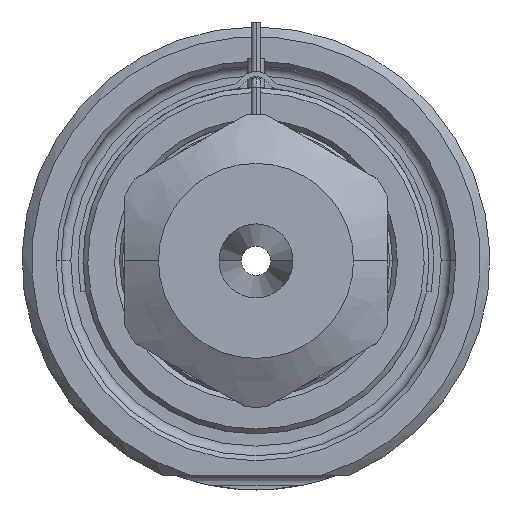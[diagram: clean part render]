
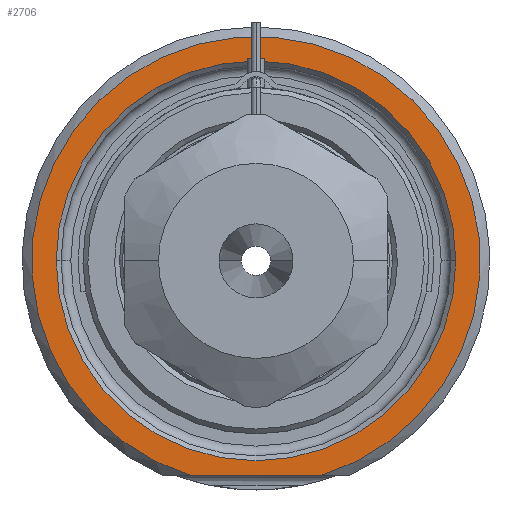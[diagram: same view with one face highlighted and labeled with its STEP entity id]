
A CAD part, front view. The second image highlights one B-rep face of the part: STEP entity #2706.
In plain terms, the highlighted planar face has unit normal (0, -1, 0).
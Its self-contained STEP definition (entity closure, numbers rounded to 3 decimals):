
#1=DIRECTION('',(1.,0.,0.));
#2=VECTOR('',#1,13.416);
#3=CARTESIAN_POINT('',(-6.708,0.,-22.));
#4=LINE('',#3,#2);
#5=CARTESIAN_POINT('',(0.,0.,0.));
#6=DIRECTION('',(0.,1.,0.));
#7=DIRECTION('',(-1.,0.,0.));
#8=AXIS2_PLACEMENT_3D('',#5,#6,#7);
#10=CARTESIAN_POINT('',(0.,0.,0.));
#11=DIRECTION('',(0.,1.,0.));
#12=DIRECTION('',(1.,0.,0.));
#13=AXIS2_PLACEMENT_3D('',#10,#11,#12);
#121=CARTESIAN_POINT('',(0.,0.,0.));
#122=DIRECTION('',(0.,-1.,0.));
#123=DIRECTION('',(0.292,0.,-0.957));
#124=AXIS2_PLACEMENT_3D('',#121,#122,#123);
#2246=CARTESIAN_POINT('',(-20.5,0.,0.));
#2247=CARTESIAN_POINT('',(20.5,0.,0.));
#2248=VERTEX_POINT('',#2246);
#2249=VERTEX_POINT('',#2247);
#2286=CARTESIAN_POINT('',(-6.708,0.,-22.));
#2287=CARTESIAN_POINT('',(6.708,0.,-22.));
#2288=VERTEX_POINT('',#2286);
#2289=VERTEX_POINT('',#2287);
#2689=CARTESIAN_POINT('',(0.,0.,0.));
#2690=DIRECTION('',(0.,-1.,0.));
#2691=DIRECTION('',(1.,0.,0.));
#2692=AXIS2_PLACEMENT_3D('',#2689,#2690,#2691);
#2693=PLANE('',#2692);
#2695=ORIENTED_EDGE('',*,*,#2694,.F.);
#2697=ORIENTED_EDGE('',*,*,#2696,.F.);
#2698=EDGE_LOOP('',(#2695,#2697));
#2699=FACE_OUTER_BOUND('',#2698,.F.);
#2701=ORIENTED_EDGE('',*,*,#2700,.F.);
#2703=ORIENTED_EDGE('',*,*,#2702,.F.);
#2704=EDGE_LOOP('',(#2701,#2703));
#2705=FACE_BOUND('',#2704,.F.);
#2706=ADVANCED_FACE('',(#2699,#2705),#2693,.T.);
#9=CIRCLE('',#8,20.5);
#14=CIRCLE('',#13,20.5);
#125=CIRCLE('',#124,23.);
#2694=EDGE_CURVE('',#2288,#2289,#4,.T.);
#2696=EDGE_CURVE('',#2289,#2288,#125,.T.);
#2700=EDGE_CURVE('',#2248,#2249,#9,.T.);
#2702=EDGE_CURVE('',#2249,#2248,#14,.T.);
